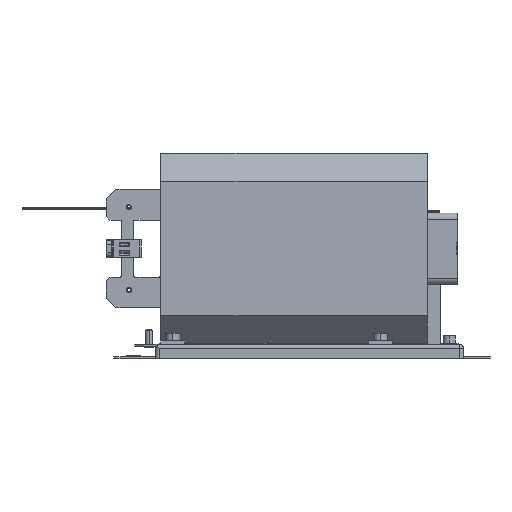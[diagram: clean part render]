
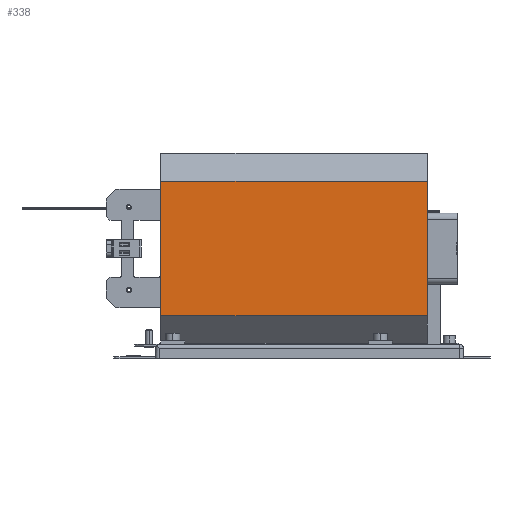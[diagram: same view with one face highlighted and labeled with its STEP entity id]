
A CAD part, left-side view. The second image highlights one B-rep face of the part: STEP entity #338.
In plain terms, the highlighted planar face has unit normal (-1, 0, 0).
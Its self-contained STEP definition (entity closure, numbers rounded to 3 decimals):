
#100 = DIRECTION ( 'NONE',  ( 0., 0., -1. ) ) ;
#338 = ADVANCED_FACE ( 'NONE', ( #19403 ), #9424, .T. ) ;
#417 = LINE ( 'NONE', #22964, #11369 ) ;
#603 = CARTESIAN_POINT ( 'NONE',  ( -189.6, -228., 24.224 ) ) ;
#1459 = ORIENTED_EDGE ( 'NONE', *, *, #12388, .T. ) ;
#3288 = EDGE_LOOP ( 'NONE', ( #21083, #1459, #26171, #18789 ) ) ;
#3525 = LINE ( 'NONE', #23961, #3732 ) ;
#3732 = VECTOR ( 'NONE', #9089, 1000. ) ;
#4773 = VECTOR ( 'NONE', #20931, 1000. ) ;
#5649 = LINE ( 'NONE', #603, #9503 ) ;
#6964 = DIRECTION ( 'NONE',  ( -1., 0., 0. ) ) ;
#7685 = VERTEX_POINT ( 'NONE', #9534 ) ;
#9089 = DIRECTION ( 'NONE',  ( 0., 1., 0. ) ) ;
#9424 = PLANE ( 'NONE',  #13322 ) ;
#9503 = VECTOR ( 'NONE', #30507, 1000. ) ;
#9534 = CARTESIAN_POINT ( 'NONE',  ( -189.6, -3., 24.224 ) ) ;
#9753 = DIRECTION ( 'NONE',  ( 0., 0., 1. ) ) ;
#11369 = VECTOR ( 'NONE', #100, 1000. ) ;
#12263 = EDGE_CURVE ( 'NONE', #28264, #23602, #5649, .T. ) ;
#12388 = EDGE_CURVE ( 'NONE', #23602, #19892, #3525, .T. ) ;
#12490 = CARTESIAN_POINT ( 'NONE',  ( -189.6, -3., 137.776 ) ) ;
#13322 = AXIS2_PLACEMENT_3D ( 'NONE', #16621, #6964, #9753 ) ;
#16621 = CARTESIAN_POINT ( 'NONE',  ( -189.6, 176.835, 24.224 ) ) ;
#17786 = EDGE_CURVE ( 'NONE', #28264, #7685, #18473, .T. ) ;
#18190 = CARTESIAN_POINT ( 'NONE',  ( -189.6, -228., 24.224 ) ) ;
#18473 = LINE ( 'NONE', #31354, #4773 ) ;
#18789 = ORIENTED_EDGE ( 'NONE', *, *, #17786, .F. ) ;
#19403 = FACE_OUTER_BOUND ( 'NONE', #3288, .T. ) ;
#19892 = VERTEX_POINT ( 'NONE', #12490 ) ;
#20931 = DIRECTION ( 'NONE',  ( 0., 1., 0. ) ) ;
#21083 = ORIENTED_EDGE ( 'NONE', *, *, #12263, .T. ) ;
#22964 = CARTESIAN_POINT ( 'NONE',  ( -189.6, -3., 6. ) ) ;
#23602 = VERTEX_POINT ( 'NONE', #30675 ) ;
#23961 = CARTESIAN_POINT ( 'NONE',  ( -189.6, 176.835, 137.776 ) ) ;
#26171 = ORIENTED_EDGE ( 'NONE', *, *, #27865, .T. ) ;
#27865 = EDGE_CURVE ( 'NONE', #19892, #7685, #417, .T. ) ;
#28264 = VERTEX_POINT ( 'NONE', #18190 ) ;
#30507 = DIRECTION ( 'NONE',  ( 0., 0., 1. ) ) ;
#30675 = CARTESIAN_POINT ( 'NONE',  ( -189.6, -228., 137.776 ) ) ;
#31354 = CARTESIAN_POINT ( 'NONE',  ( -189.6, 176.835, 24.224 ) ) ;
